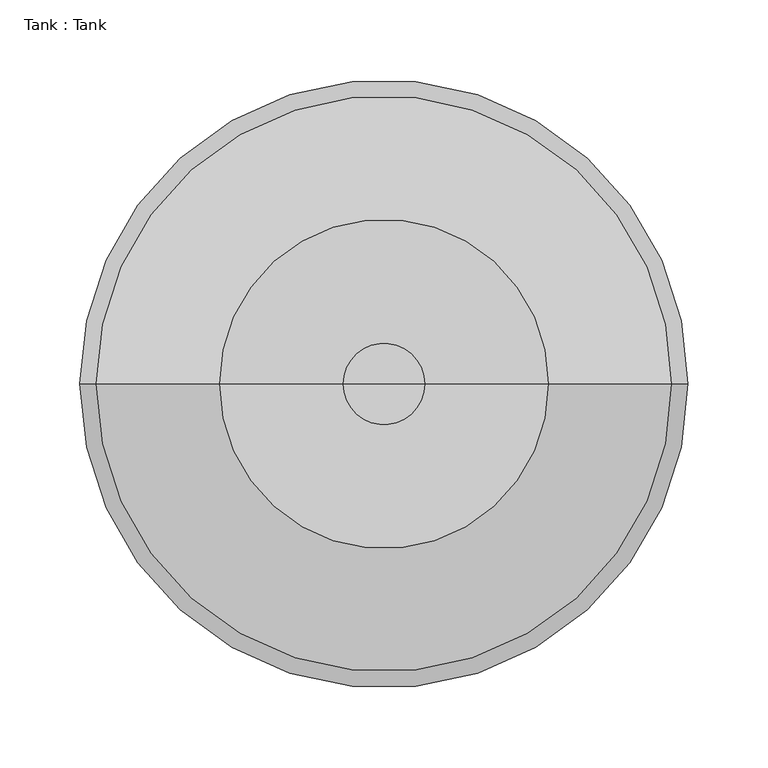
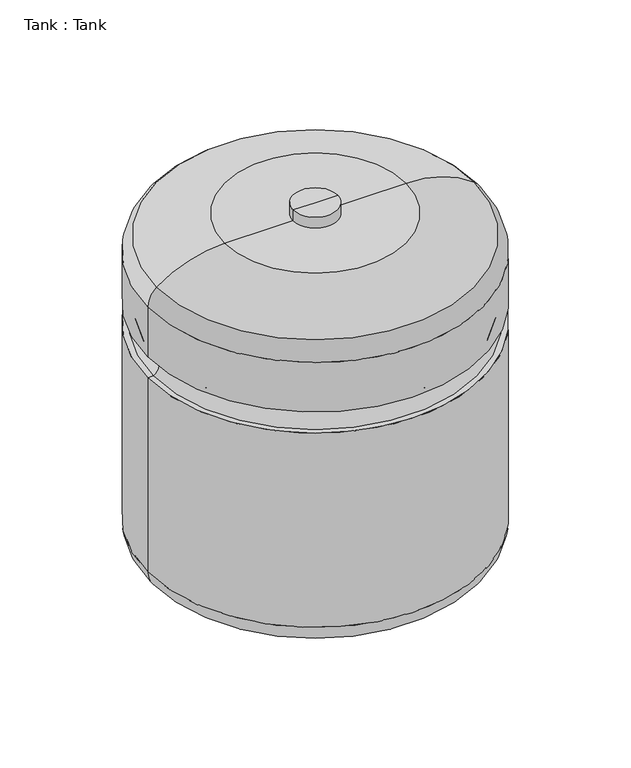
"""IFC4 building model written with IfcOpenShell, lengths in millimetres: proxy geometry, Tank : Tank."""

from ifc_helpers import new_model, si_unit, point, frame, origin, place, context, project, spatial, circle_curve, ellipse_curve, trimmed, source, transform, mapped, element, save
from ifc_brep_helpers import plane_surface, cylinder_surface, revolved_surface, advanced_brep


def tank_tank_de8b4314(model_context):
    return source(origin(), model_context, "Body", "AdvancedBrep", [
        advanced_brep(
        [(-25.4, 0.0, 46.9915066), (25.4, 0.0, 46.9915066), (25.4, 0.0, 34.373173), (-25.4, 0.0, 34.373173), (0.0, 0.0, 46.9915066), (0.0, 0.0, 34.373173)],
        [
            (0, 1, circle_curve(frame((0.0, 0.0, 46.9915066), z_axis=(0.0, 0.0, -1.0), x_axis=(1.0, 0.0, 0.0)), 25.4)),
            (1, 2),
            (2, 3, circle_curve(frame((0.0, 0.0, 34.373173), z_axis=(0.0, 0.0, 1.0), x_axis=(1.0, 0.0, 0.0)), 25.4)),
            (3, 0),
            (1, 0, circle_curve(frame((0.0, 0.0, 46.9915066), z_axis=(0.0, 0.0, -1.0), x_axis=(1.0, 0.0, 0.0)), 25.4)),
            (3, 2, circle_curve(frame((0.0, 0.0, 34.373173), z_axis=(0.0, 0.0, 1.0), x_axis=(1.0, 0.0, 0.0)), 25.4)),
            (4, 1),
            (0, 4),
            (2, 5),
            (5, 3),
        ],
        [
            cylinder_surface(frame((0.0, 0.0, -1812.2156801), z_axis=(0.0, 0.0, 1.0), x_axis=(1.0, 0.0, 0.0)), 25.4),
            plane_surface(frame((0.0, 0.0, 46.9915066), z_axis=(0.0, 0.0, 1.0), x_axis=(1.0, 0.0, 0.0))),
            plane_surface(frame((0.0, 0.0, 34.373173), z_axis=(0.0, 0.0, -1.0), x_axis=(1.0, 0.0, 0.0))),
        ],
        [
            (0, [[1, 2, 3, 4]]),
            (0, [[5, -4, 6, -2]]),
            (1, [[7, -1, 8]]),
            (1, [[-8, -5, -7]]),
            (2, [[-3, 9, 10]]),
            (2, [[-6, -10, -9]]),
        ],
    ),
        advanced_brep(
        [(-25.4, 0.0, 469.9), (25.4, 0.0, 469.9), (25.4, 0.0, 457.2), (-25.4, 0.0, 457.2), (0.0, 0.0, 469.9), (0.0, 0.0, 457.2)],
        [
            (0, 1, circle_curve(frame((0.0, 0.0, 469.9), z_axis=(0.0, 0.0, -1.0), x_axis=(1.0, 0.0, 0.0)), 25.4)),
            (1, 2),
            (2, 3, circle_curve(frame((0.0, 0.0, 457.2), z_axis=(0.0, 0.0, 1.0), x_axis=(1.0, 0.0, 0.0)), 25.4)),
            (3, 0),
            (1, 0, circle_curve(frame((0.0, 0.0, 469.9), z_axis=(0.0, 0.0, -1.0), x_axis=(1.0, 0.0, 0.0)), 25.4)),
            (3, 2, circle_curve(frame((0.0, 0.0, 457.2), z_axis=(0.0, 0.0, 1.0), x_axis=(1.0, 0.0, 0.0)), 25.4)),
            (4, 1),
            (0, 4),
            (2, 5),
            (5, 3),
        ],
        [
            cylinder_surface(frame((0.0, 0.0, 2316.4888531), z_axis=(0.0, 0.0, 1.0), x_axis=(1.0, 0.0, 0.0)), 25.4),
            plane_surface(frame((0.0, 0.0, 469.9), z_axis=(0.0, 0.0, 1.0), x_axis=(1.0, 0.0, 0.0))),
            plane_surface(frame((0.0, 0.0, 457.2), z_axis=(0.0, 0.0, -1.0), x_axis=(1.0, 0.0, 0.0))),
        ],
        [
            (0, [[1, 2, 3, 4]]),
            (0, [[5, -4, 6, -2]]),
            (1, [[7, -1, 8]]),
            (1, [[-8, -5, -7]]),
            (2, [[-3, 9, 10]]),
            (2, [[-6, -10, -9]]),
        ],
    ),
        advanced_brep(
        [(-103.163024, 0.0, 47.0210426), (103.163024, 0.0, 47.0210426), (0.0, 0.0, 47.0210426), (-180.2576075, 0.0, 73.0176309), (180.2576075, 0.0, 73.0176309), (-190.2765754, 0.0, 93.231088), (190.2765754, 0.0, 93.231088), (-190.2765754, 0.0, 326.2502724), (190.2765754, 0.0, 326.2502724), (-183.9265754, 0.0, 326.2502724), (183.9265754, 0.0, 326.2502724), (-183.9265754, 0.0, 351.6502724), (183.9265754, 0.0, 351.6502724), (-190.2765754, 0.0, 351.6502724), (190.2765754, 0.0, 351.6502724), (-190.2765754, 0.0, 410.9899545), (190.2765754, 0.0, 410.9899545), (-180.2576075, 0.0, 431.2034117), (180.2576075, 0.0, 431.2034117), (-103.163024, 0.0, 457.2), (103.163024, 0.0, 457.2), (0.0, 0.0, 457.2)],
        [
            (0, 1, circle_curve(frame((0.0, 0.0, 47.0210426), z_axis=(0.0, 0.0, -1.0), x_axis=(1.0, 0.0, 0.0)), 103.163024)),
            (1, 2),
            (2, 0),
            (1, 0, circle_curve(frame((0.0, 0.0, 47.0210426), z_axis=(0.0, 0.0, -1.0), x_axis=(1.0, 0.0, 0.0)), 103.163024)),
            (3, 4, circle_curve(frame((0.0, 0.0, 73.0176309), z_axis=(0.0, 0.0, -1.0), x_axis=(1.0, 0.0, 0.0)), 180.2576075)),
            (4, 1, circle_curve(frame((103.163024, 0.0, 174.3338526), z_axis=(0.0, 1.0, 0.0), x_axis=(1.0, 0.0, 0.0)), 127.31281)),
            (0, 3, circle_curve(frame((-103.163024, 0.0, 174.3338526), z_axis=(0.0, 1.0, 0.0), x_axis=(-1.0, 0.0, 0.0)), 127.31281)),
            (4, 3, circle_curve(frame((0.0, 0.0, 73.0176309), z_axis=(0.0, 0.0, -1.0), x_axis=(1.0, 0.0, 0.0)), 180.2576075)),
            (5, 6, circle_curve(frame((0.0, 0.0, 93.231088), z_axis=(0.0, 0.0, -1.0), x_axis=(1.0, 0.0, 0.0)), 190.2765754)),
            (6, 4, circle_curve(frame((164.8765754, 0.0, 93.231088), z_axis=(0.0, 1.0, 0.0), x_axis=(1.0, 0.0, 0.0)), 25.4)),
            (3, 5, circle_curve(frame((-164.8765754, 0.0, 93.231088), z_axis=(0.0, 1.0, 0.0), x_axis=(-1.0, 0.0, 0.0)), 25.4)),
            (6, 5, circle_curve(frame((0.0, 0.0, 93.231088), z_axis=(0.0, 0.0, -1.0), x_axis=(1.0, 0.0, 0.0)), 190.2765754)),
            (7, 8, circle_curve(frame((0.0, 0.0, 326.2502724), z_axis=(0.0, 0.0, -1.0), x_axis=(1.0, 0.0, 0.0)), 190.2765754)),
            (8, 6),
            (5, 7),
            (8, 7, circle_curve(frame((0.0, 0.0, 326.2502724), z_axis=(0.0, 0.0, -1.0), x_axis=(1.0, 0.0, 0.0)), 190.2765754)),
            (9, 10, circle_curve(frame((0.0, 0.0, 326.2502724), z_axis=(0.0, 0.0, -1.0), x_axis=(1.0, 0.0, 0.0)), 183.9265754)),
            (10, 8),
            (7, 9),
            (10, 9, circle_curve(frame((0.0, 0.0, 326.2502724), z_axis=(0.0, 0.0, -1.0), x_axis=(1.0, 0.0, 0.0)), 183.9265754)),
            (11, 12, circle_curve(frame((0.0, 0.0, 351.6502724), z_axis=(0.0, 0.0, -1.0), x_axis=(1.0, 0.0, 0.0)), 183.9265754)),
            (12, 10, circle_curve(frame((192.6895076, 0.0, 338.9502724), z_axis=(0.0, -1.0, 0.0), x_axis=(1.0, 0.0, 0.0)), 15.4298082)),
            (9, 11, circle_curve(frame((-192.6895076, 0.0, 338.9502724), z_axis=(0.0, -1.0, 0.0), x_axis=(-1.0, 0.0, 0.0)), 15.4298082)),
            (12, 11, circle_curve(frame((0.0, 0.0, 351.6502724), z_axis=(0.0, 0.0, -1.0), x_axis=(1.0, 0.0, 0.0)), 183.9265754)),
            (13, 14, circle_curve(frame((0.0, 0.0, 351.6502724), z_axis=(0.0, 0.0, -1.0), x_axis=(1.0, 0.0, 0.0)), 190.2765754)),
            (14, 12),
            (11, 13),
            (14, 13, circle_curve(frame((0.0, 0.0, 351.6502724), z_axis=(0.0, 0.0, -1.0), x_axis=(1.0, 0.0, 0.0)), 190.2765754)),
            (15, 16, circle_curve(frame((0.0, 0.0, 410.9899545), z_axis=(0.0, 0.0, -1.0), x_axis=(1.0, 0.0, 0.0)), 190.2765754)),
            (16, 14),
            (13, 15),
            (16, 15, circle_curve(frame((0.0, 0.0, 410.9899545), z_axis=(0.0, 0.0, -1.0), x_axis=(1.0, 0.0, 0.0)), 190.2765754)),
            (17, 18, circle_curve(frame((0.0, 0.0, 431.2034117), z_axis=(0.0, 0.0, -1.0), x_axis=(1.0, 0.0, 0.0)), 180.2576075)),
            (18, 16, circle_curve(frame((164.8765754, 0.0, 410.9899545), z_axis=(0.0, 1.0, 0.0), x_axis=(1.0, 0.0, 0.0)), 25.4)),
            (15, 17, circle_curve(frame((-164.8765754, 0.0, 410.9899545), z_axis=(0.0, 1.0, 0.0), x_axis=(-1.0, 0.0, 0.0)), 25.4)),
            (18, 17, circle_curve(frame((0.0, 0.0, 431.2034117), z_axis=(0.0, 0.0, -1.0), x_axis=(1.0, 0.0, 0.0)), 180.2576075)),
            (19, 20, circle_curve(frame((0.0, 0.0, 457.2), z_axis=(0.0, 0.0, -1.0), x_axis=(1.0, 0.0, 0.0)), 103.163024)),
            (20, 18, circle_curve(frame((103.163024, 0.0, 329.88719), z_axis=(0.0, 1.0, 0.0), x_axis=(1.0, 0.0, 0.0)), 127.31281)),
            (17, 19, circle_curve(frame((-103.163024, 0.0, 329.88719), z_axis=(0.0, 1.0, 0.0), x_axis=(-1.0, 0.0, 0.0)), 127.31281)),
            (20, 19, circle_curve(frame((0.0, 0.0, 457.2), z_axis=(0.0, 0.0, -1.0), x_axis=(1.0, 0.0, 0.0)), 103.163024)),
            (21, 20),
            (19, 21),
        ],
        [
            plane_surface(frame((0.0, 0.0, 47.0210426), z_axis=(0.0, 0.0, -1.0), x_axis=(1.0, 0.0, 0.0))),
            revolved_surface(trimmed(ellipse_curve(frame((103.163024, 0.0, 174.3338526), z_axis=(0.0, -1.0, 0.0), x_axis=(1.0, 0.0, 0.0)), 127.31281, 127.31281), [point((103.163024, 0.0, 47.0210426))], [point((180.2576075, 0.0, 73.0176309))], True, "CARTESIAN"), (0.0, 0.0, 2316.4888531), (0.0, 0.0, 1.0)),
            revolved_surface(trimmed(ellipse_curve(frame((164.8765754, 0.0, 93.231088), z_axis=(0.0, -1.0, 0.0), x_axis=(1.0, 0.0, 0.0)), 25.4, 25.4), [point((180.2576075, 0.0, 73.0176309))], [point((190.2765754, 0.0, 93.231088))], True, "CARTESIAN"), (0.0, 0.0, 2316.4888531), (0.0, 0.0, 1.0)),
            cylinder_surface(frame((0.0, 0.0, 2316.4888531), z_axis=(0.0, 0.0, 1.0), x_axis=(1.0, 0.0, 0.0)), 190.2765754),
            plane_surface(frame((0.0, 0.0, 326.2502724), z_axis=(0.0, 0.0, 1.0), x_axis=(1.0, 0.0, 0.0))),
            revolved_surface(trimmed(ellipse_curve(frame((192.6895076, 0.0, 338.9502724), z_axis=(0.0, 1.0, 0.0), x_axis=(1.0, 0.0, 0.0)), 15.4298082, 15.4298082), [point((183.9265754, 0.0, 326.2502724))], [point((183.9265754, 0.0, 351.6502724))], True, "CARTESIAN"), (0.0, 0.0, 2316.4888531), (0.0, 0.0, 1.0)),
            plane_surface(frame((0.0, 0.0, 351.6502724), z_axis=(0.0, 0.0, -1.0), x_axis=(1.0, 0.0, 0.0))),
            revolved_surface(trimmed(ellipse_curve(frame((164.8765754, 0.0, 410.9899545), z_axis=(0.0, -1.0, 0.0), x_axis=(1.0, 0.0, 0.0)), 25.4, 25.4), [point((190.2765754, 0.0, 410.9899545))], [point((180.2576075, 0.0, 431.2034117))], True, "CARTESIAN"), (0.0, 0.0, 2316.4888531), (0.0, 0.0, 1.0)),
            revolved_surface(trimmed(ellipse_curve(frame((103.163024, 0.0, 329.88719), z_axis=(0.0, -1.0, 0.0), x_axis=(1.0, 0.0, 0.0)), 127.31281, 127.31281), [point((180.2576075, 0.0, 431.2034117))], [point((103.163024, 0.0, 457.2))], True, "CARTESIAN"), (0.0, 0.0, 2316.4888531), (0.0, 0.0, 1.0)),
            plane_surface(frame((0.0, 0.0, 457.2), z_axis=(0.0, 0.0, 1.0), x_axis=(1.0, 0.0, 0.0))),
        ],
        [
            (0, [[1, 2, 3]]),
            (0, [[4, -3, -2]]),
            (1, [[5, 6, -1, 7]]),
            (1, [[8, -7, -4, -6]]),
            (2, [[9, 10, -5, 11]]),
            (2, [[12, -11, -8, -10]]),
            (3, [[13, 14, -9, 15]]),
            (3, [[16, -15, -12, -14]]),
            (4, [[17, 18, -13, 19]]),
            (4, [[20, -19, -16, -18]]),
            (5, [[21, 22, -17, 23]]),
            (5, [[24, -23, -20, -22]]),
            (6, [[25, 26, -21, 27]]),
            (6, [[28, -27, -24, -26]]),
            (3, [[29, 30, -25, 31]]),
            (3, [[32, -31, -28, -30]]),
            (7, [[33, 34, -29, 35]]),
            (7, [[36, -35, -32, -34]]),
            (8, [[37, 38, -33, 39]]),
            (8, [[40, -39, -36, -38]]),
            (9, [[41, -37, 42]]),
            (9, [[-42, -40, -41]]),
        ],
    ),
    ])


if __name__ == "__main__":
    model = new_model("IFC4")
    model_context = context("Model", 3, world=origin())
    ifc_project = project(units=[si_unit("LENGTHUNIT", "METRE", prefix="MILLI")], contexts=[model_context])
    site = spatial("IfcSite", under=ifc_project)
    building = spatial("IfcBuilding", under=site)
    placement = place(None, origin())
    tank_tank_shape = tank_tank_de8b4314(model_context)
    element("IfcBuildingElementProxy", 1, Name="Tank : Tank", ObjectType="Tank : Tank", at=placement, inside=building, context=model_context, shape_type="MappedRepresentation", body=[
        mapped(tank_tank_shape, transform((0.0, 0.0, 0.0), x_axis=(1.0, 0.0, 0.0), y_axis=(0.0, 1.0, 0.0), z_axis=(0.0, 0.0, 1.0))),
    ])
    save(model, "model.ifc")
